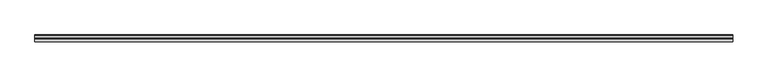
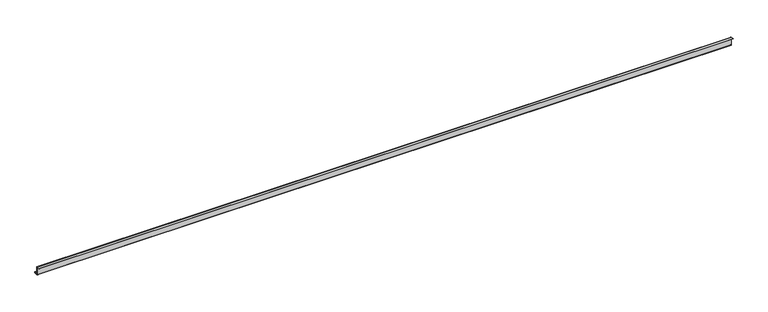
"""IFC4 building model written with IfcOpenShell, lengths in millimetres: proxy geometry, durlum_U1005 : durlum_U_1005_AM."""

from ifc_helpers import new_model, si_unit, point, frame, frame_2d, origin, place, context, project, spatial, polyline, circle_curve, trimmed, segment, composite_curve, outline, extrude, source, transform, mapped, element, save


def generic_models_0c29f77a(model_context):
    return source(origin(), model_context, "Body", "SweptSolid", [
        extrude(outline(composite_curve([segment(polyline([(-17.75, 50.0), (-1.25, 50.0)]), True, "CONTINUOUS"), segment(trimmed(circle_curve(frame_2d((-1.25, 47.5)), 2.5), [point((-1.25, 50.0))], [point((1.25, 47.5))], False, "CARTESIAN"), True, "CONTINUOUS"), segment(polyline([(1.25, 47.5), (1.25, 2.5)]), True, "CONTINUOUS"), segment(trimmed(circle_curve(frame_2d((2.5, 2.5)), 1.25), [point((1.25, 2.5))], [point((2.5, 1.25))], True, "CARTESIAN"), True, "CONTINUOUS"), segment(polyline([(2.5, 1.25), (18.5, 1.25)]), True, "CONTINUOUS"), segment(trimmed(circle_curve(frame_2d((18.5, 2.5)), 1.25), [point((18.5, 1.25))], [point((19.75, 2.5))], True, "CARTESIAN"), True, "CONTINUOUS"), segment(polyline([(19.75, 2.5), (19.75, 7.0), (21.0, 7.0), (21.0, 2.5)]), True, "CONTINUOUS"), segment(trimmed(circle_curve(frame_2d((18.5, 2.5)), 2.5), [point((21.0, 2.5))], [point((18.5, 0.0))], False, "CARTESIAN"), True, "CONTINUOUS"), segment(polyline([(18.5, 0.0), (2.5, 0.0)]), True, "CONTINUOUS"), segment(trimmed(circle_curve(frame_2d((2.5, 2.5)), 2.5), [point((2.5, 0.0))], [point((0.0, 2.5))], False, "CARTESIAN"), True, "CONTINUOUS"), segment(polyline([(0.0, 2.5), (0.0, 47.5)]), True, "CONTINUOUS"), segment(trimmed(circle_curve(frame_2d((-1.25, 47.5)), 1.25), [point((0.0, 47.5))], [point((-1.25, 48.75))], True, "CARTESIAN"), True, "CONTINUOUS"), segment(polyline([(-1.25, 48.75), (-17.75, 48.75), (-17.75, 50.0)]), True, "CONTINUOUS")], self_intersect=False)), frame((-2000.0, 0.0, 0.0), z_axis=(1.0, 0.0, 0.0), x_axis=(0.0, 1.0, 0.0)), (0.0, 0.0, 1.0), 4000.0),
    ])


if __name__ == "__main__":
    model = new_model("IFC4")
    model_context = context("Model", 3, world=origin())
    ifc_project = project(units=[si_unit("LENGTHUNIT", "METRE", prefix="MILLI")], contexts=[model_context])
    site = spatial("IfcSite", under=ifc_project)
    building = spatial("IfcBuilding", under=site)
    placement = place(None, origin())
    generic_models_shape = generic_models_0c29f77a(model_context)
    element("IfcBuildingElementProxy", 1, Name="durlum_U1005 : durlum_U_1005_AM", ObjectType="durlum_U1005 : durlum_U_1005_AM", at=placement, inside=building, context=model_context, shape_type="MappedRepresentation", body=[
        mapped(generic_models_shape, transform((0.0, 0.0, 0.0), x_axis=(1.0, 0.0, 0.0), y_axis=(0.0, 1.0, 0.0), z_axis=(0.0, 0.0, 1.0))),
    ])
    save(model, "model.ifc")
